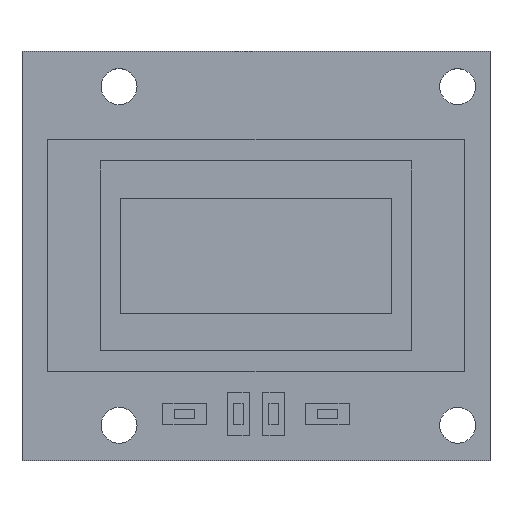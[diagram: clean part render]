
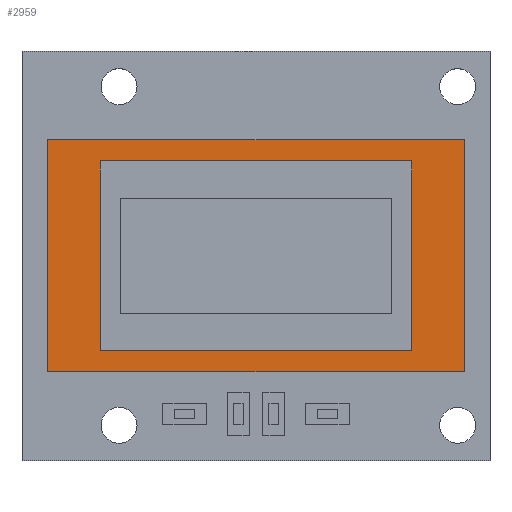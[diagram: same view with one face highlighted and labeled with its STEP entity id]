
A CAD part, top view. The second image highlights one B-rep face of the part: STEP entity #2959.
In plain terms, the highlighted planar face has unit normal (0, 0, 1).
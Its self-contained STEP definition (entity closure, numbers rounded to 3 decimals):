
#17 = DIRECTION ( 'NONE',  ( 0., -1., 0. ) ) ;
#49 = DIRECTION ( 'NONE',  ( 0., 0., 1. ) ) ;
#81 = CARTESIAN_POINT ( 'NONE',  ( 29., -16.15, 1.6 ) ) ;
#228 = VECTOR ( 'NONE', #3147, 1000. ) ;
#279 = EDGE_CURVE ( 'NONE', #4274, #1289, #3562, .T. ) ;
#363 = CARTESIAN_POINT ( 'NONE',  ( 29., 16.15, 1.6 ) ) ;
#376 = CARTESIAN_POINT ( 'NONE',  ( 21.65, 13.2, 1.6 ) ) ;
#450 = FACE_OUTER_BOUND ( 'NONE', #1076, .T. ) ;
#509 = AXIS2_PLACEMENT_3D ( 'NONE', #4156, #49, #2919 ) ;
#531 = CARTESIAN_POINT ( 'NONE',  ( -29., 16.15, 1.6 ) ) ;
#798 = VERTEX_POINT ( 'NONE', #376 ) ;
#903 = CARTESIAN_POINT ( 'NONE',  ( 29., 16.15, 1.6 ) ) ;
#1039 = ORIENTED_EDGE ( 'NONE', *, *, #4577, .F. ) ;
#1076 = EDGE_LOOP ( 'NONE', ( #4791, #3488, #1473, #4084 ) ) ;
#1199 = ORIENTED_EDGE ( 'NONE', *, *, #5305, .F. ) ;
#1210 = CARTESIAN_POINT ( 'NONE',  ( -29., -16.15, 1.6 ) ) ;
#1237 = ORIENTED_EDGE ( 'NONE', *, *, #3584, .F. ) ;
#1289 = VERTEX_POINT ( 'NONE', #531 ) ;
#1435 = EDGE_CURVE ( 'NONE', #2853, #5251, #1498, .T. ) ;
#1472 = DIRECTION ( 'NONE',  ( 1., 0., 0. ) ) ;
#1473 = ORIENTED_EDGE ( 'NONE', *, *, #2417, .T. ) ;
#1498 = LINE ( 'NONE', #3083, #2448 ) ;
#1571 = EDGE_CURVE ( 'NONE', #1687, #3499, #3682, .T. ) ;
#1641 = CARTESIAN_POINT ( 'NONE',  ( 29., -16.15, 1.6 ) ) ;
#1687 = VERTEX_POINT ( 'NONE', #3814 ) ;
#2082 = LINE ( 'NONE', #4198, #4138 ) ;
#2107 = VECTOR ( 'NONE', #17, 1000. ) ;
#2145 = ORIENTED_EDGE ( 'NONE', *, *, #1571, .F. ) ;
#2239 = LINE ( 'NONE', #2892, #2107 ) ;
#2408 = LINE ( 'NONE', #3966, #228 ) ;
#2409 = DIRECTION ( 'NONE',  ( -1., 0., 0. ) ) ;
#2417 = EDGE_CURVE ( 'NONE', #5251, #4274, #3978, .T. ) ;
#2448 = VECTOR ( 'NONE', #1472, 1000. ) ;
#2459 = VECTOR ( 'NONE', #2409, 1000. ) ;
#2764 = CARTESIAN_POINT ( 'NONE',  ( 21.65, -13.2, 1.6 ) ) ;
#2853 = VERTEX_POINT ( 'NONE', #1210 ) ;
#2878 = VECTOR ( 'NONE', #4915, 1000. ) ;
#2892 = CARTESIAN_POINT ( 'NONE',  ( -29., -16.15, 1.6 ) ) ;
#2919 = DIRECTION ( 'NONE',  ( 1., 0., 0. ) ) ;
#2925 = EDGE_CURVE ( 'NONE', #1289, #2853, #2239, .T. ) ;
#2930 = LINE ( 'NONE', #4769, #3907 ) ;
#2959 = ADVANCED_FACE ( 'NONE', ( #450, #3552 ), #4569, .T. ) ;
#3083 = CARTESIAN_POINT ( 'NONE',  ( 29., -16.15, 1.6 ) ) ;
#3147 = DIRECTION ( 'NONE',  ( -1., 0., 0. ) ) ;
#3381 = EDGE_LOOP ( 'NONE', ( #2145, #1237, #1039, #1199 ) ) ;
#3488 = ORIENTED_EDGE ( 'NONE', *, *, #1435, .T. ) ;
#3499 = VERTEX_POINT ( 'NONE', #5127 ) ;
#3552 = FACE_BOUND ( 'NONE', #3381, .T. ) ;
#3562 = LINE ( 'NONE', #363, #2459 ) ;
#3584 = EDGE_CURVE ( 'NONE', #4121, #1687, #2930, .T. ) ;
#3682 = LINE ( 'NONE', #2764, #4639 ) ;
#3804 = DIRECTION ( 'NONE',  ( 0., 1., 0. ) ) ;
#3814 = CARTESIAN_POINT ( 'NONE',  ( -21.65, -13.2, 1.6 ) ) ;
#3907 = VECTOR ( 'NONE', #5184, 1000. ) ;
#3966 = CARTESIAN_POINT ( 'NONE',  ( 21.65, 13.2, 1.6 ) ) ;
#3978 = LINE ( 'NONE', #1641, #2878 ) ;
#4084 = ORIENTED_EDGE ( 'NONE', *, *, #279, .T. ) ;
#4121 = VERTEX_POINT ( 'NONE', #4906 ) ;
#4138 = VECTOR ( 'NONE', #3804, 1000. ) ;
#4156 = CARTESIAN_POINT ( 'NONE',  ( 0., 0., 1.6 ) ) ;
#4198 = CARTESIAN_POINT ( 'NONE',  ( 21.65, -13.2, 1.6 ) ) ;
#4274 = VERTEX_POINT ( 'NONE', #903 ) ;
#4569 = PLANE ( 'NONE',  #509 ) ;
#4577 = EDGE_CURVE ( 'NONE', #798, #4121, #2408, .T. ) ;
#4639 = VECTOR ( 'NONE', #4827, 1000. ) ;
#4769 = CARTESIAN_POINT ( 'NONE',  ( -21.65, -13.2, 1.6 ) ) ;
#4791 = ORIENTED_EDGE ( 'NONE', *, *, #2925, .T. ) ;
#4827 = DIRECTION ( 'NONE',  ( 1., 0., 0. ) ) ;
#4906 = CARTESIAN_POINT ( 'NONE',  ( -21.65, 13.2, 1.6 ) ) ;
#4915 = DIRECTION ( 'NONE',  ( 0., 1., 0. ) ) ;
#5127 = CARTESIAN_POINT ( 'NONE',  ( 21.65, -13.2, 1.6 ) ) ;
#5184 = DIRECTION ( 'NONE',  ( 0., -1., 0. ) ) ;
#5251 = VERTEX_POINT ( 'NONE', #81 ) ;
#5305 = EDGE_CURVE ( 'NONE', #3499, #798, #2082, .T. ) ;
